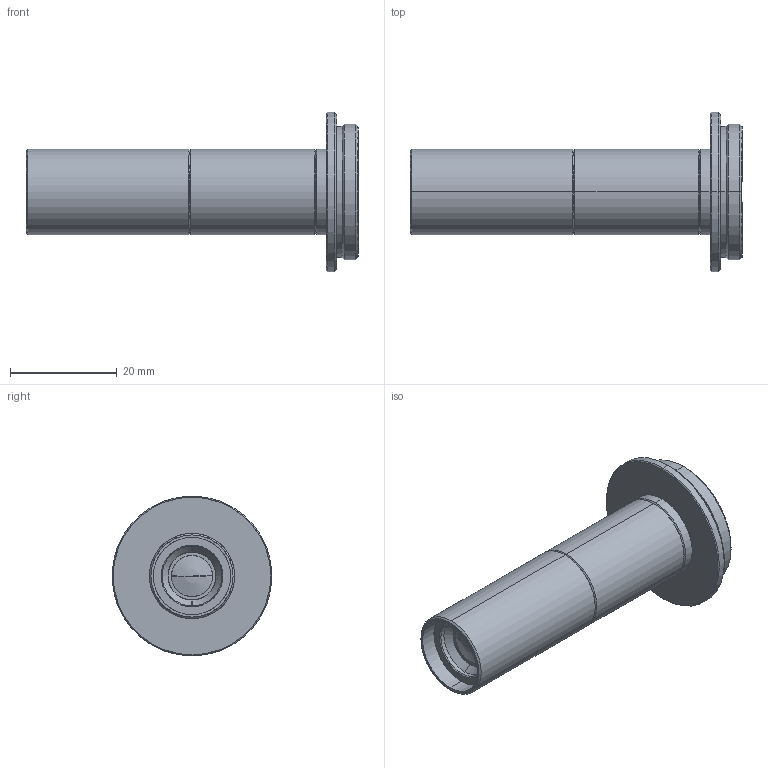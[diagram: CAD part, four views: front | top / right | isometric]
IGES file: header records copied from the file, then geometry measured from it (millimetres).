
Start section: SolidWorks IGES file using analytic representation for surfaces
Global section: file name: C:\Users\uchikawa_vst\Documents\作業フォルダ_内川\1000_開発_作業\1110_3Dモデル\VS-MC1-60\MC10-60(VS-MC1-60).IGS; native system: SolidWorks 2018; preprocessor: SolidWorks 2018; author: uchikawa_vst; date: 200426.200522; units: millimetre
Bounding box: 62.33 x 30 x 30 mm (x, y, z)
Surface area: 6903.4 mm2 (no closed solid volume)
Topology: 0 solids, 0 shells, 85 faces, 1188 edges, 1186 vertices
Faces by surface type: revolution 72, bspline 13
